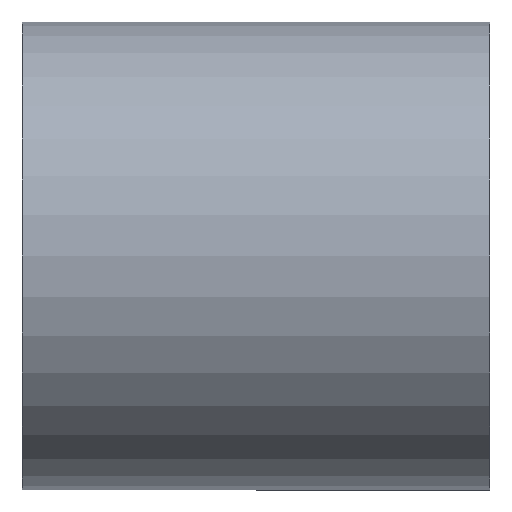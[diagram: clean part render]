
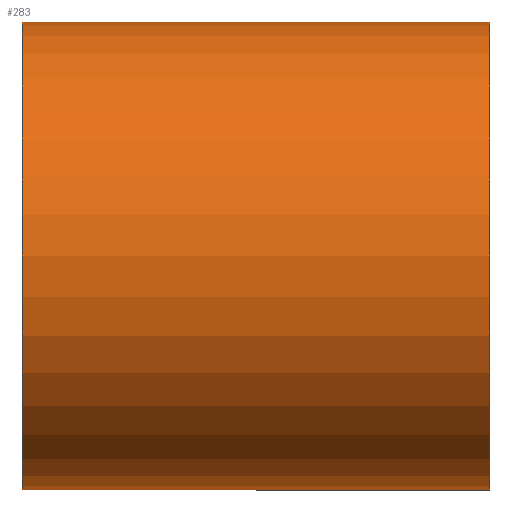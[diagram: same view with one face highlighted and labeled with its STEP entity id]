
A CAD part, front view. The second image highlights one B-rep face of the part: STEP entity #283.
In plain terms, the highlighted cylindrical face has radius 15 mm (diameter 30 mm), a partial arc.
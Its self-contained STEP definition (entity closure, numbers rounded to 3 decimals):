
#24 = VERTEX_POINT ( 'NONE', #598 ) ;
#28 = DIRECTION ( 'NONE',  ( 0., 0., 1. ) ) ;
#60 = VERTEX_POINT ( 'NONE', #148 ) ;
#118 = VECTOR ( 'NONE', #806, 1000. ) ;
#120 = AXIS2_PLACEMENT_3D ( 'NONE', #864, #167, #28 ) ;
#121 = FACE_OUTER_BOUND ( 'NONE', #652, .T. ) ;
#127 = DIRECTION ( 'NONE',  ( 0., 0., 1. ) ) ;
#147 = CARTESIAN_POINT ( 'NONE',  ( 15., 0., -15. ) ) ;
#148 = CARTESIAN_POINT ( 'NONE',  ( -15., 0., -15. ) ) ;
#163 = DIRECTION ( 'NONE',  ( 0., 0., 1. ) ) ;
#167 = DIRECTION ( 'NONE',  ( -1., 0., 0. ) ) ;
#172 = CIRCLE ( 'NONE', #120, 15. ) ;
#235 = ORIENTED_EDGE ( 'NONE', *, *, #655, .T. ) ;
#246 = VECTOR ( 'NONE', #788, 1000. ) ;
#268 = ORIENTED_EDGE ( 'NONE', *, *, #520, .F. ) ;
#274 = AXIS2_PLACEMENT_3D ( 'NONE', #405, #615, #127 ) ;
#282 = DIRECTION ( 'NONE',  ( -1., 0., 0. ) ) ;
#283 = ADVANCED_FACE ( 'NONE', ( #121 ), #417, .T. ) ;
#302 = AXIS2_PLACEMENT_3D ( 'NONE', #554, #282, #163 ) ;
#376 = VERTEX_POINT ( 'NONE', #147 ) ;
#405 = CARTESIAN_POINT ( 'NONE',  ( 15., 0., 0. ) ) ;
#406 = EDGE_CURVE ( 'NONE', #747, #24, #581, .T. ) ;
#417 = CYLINDRICAL_SURFACE ( 'NONE', #302, 15. ) ;
#489 = CARTESIAN_POINT ( 'NONE',  ( 15., 0., 15. ) ) ;
#520 = EDGE_CURVE ( 'NONE', #376, #60, #600, .T. ) ;
#524 = EDGE_CURVE ( 'NONE', #60, #24, #172, .T. ) ;
#554 = CARTESIAN_POINT ( 'NONE',  ( 0., 0., 0. ) ) ;
#581 = LINE ( 'NONE', #860, #118 ) ;
#596 = CARTESIAN_POINT ( 'NONE',  ( 0., 0., -15. ) ) ;
#598 = CARTESIAN_POINT ( 'NONE',  ( -15., 0., 15. ) ) ;
#600 = LINE ( 'NONE', #596, #246 ) ;
#615 = DIRECTION ( 'NONE',  ( -1., 0., 0. ) ) ;
#651 = CIRCLE ( 'NONE', #274, 15. ) ;
#652 = EDGE_LOOP ( 'NONE', ( #268, #235, #752, #797 ) ) ;
#655 = EDGE_CURVE ( 'NONE', #376, #747, #651, .T. ) ;
#747 = VERTEX_POINT ( 'NONE', #489 ) ;
#752 = ORIENTED_EDGE ( 'NONE', *, *, #406, .T. ) ;
#788 = DIRECTION ( 'NONE',  ( -1., 0., 0. ) ) ;
#797 = ORIENTED_EDGE ( 'NONE', *, *, #524, .F. ) ;
#806 = DIRECTION ( 'NONE',  ( -1., 0., 0. ) ) ;
#860 = CARTESIAN_POINT ( 'NONE',  ( 0., 0., 15. ) ) ;
#864 = CARTESIAN_POINT ( 'NONE',  ( -15., 0., 0. ) ) ;
